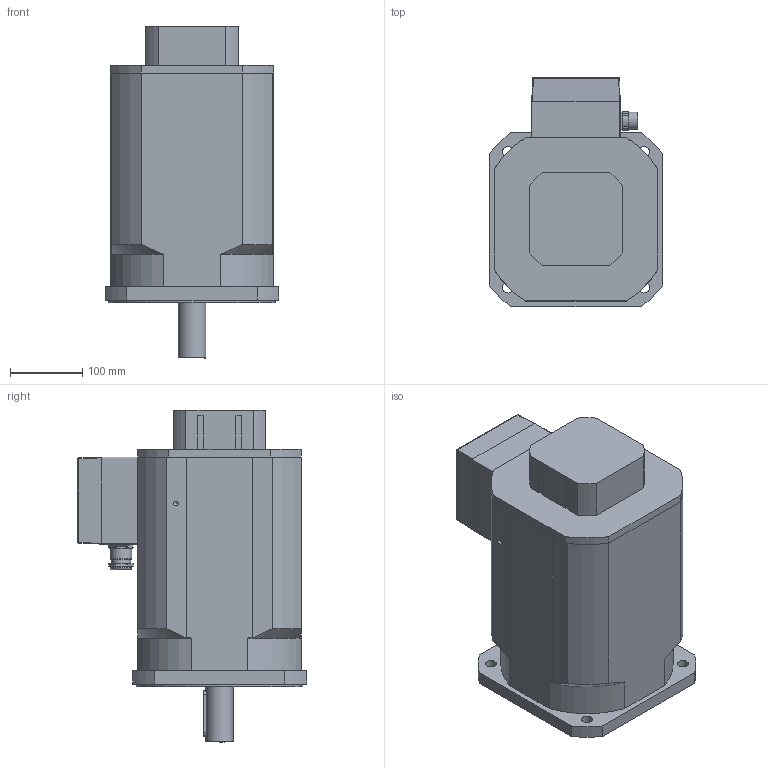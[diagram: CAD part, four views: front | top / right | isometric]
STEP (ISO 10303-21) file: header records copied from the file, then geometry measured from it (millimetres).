
FILE_DESCRIPTION(/* description */ ('Alibre Inc.'),/* implementation_level */ '2;1');
FILE_NAME(/* name */ 'export0',/* time_stamp */ '2011-11-01T09:53:53+01:00',/* author */ (''),/* organization */ (''),/* preprocessor_version */ 'ST-DEVELOPER v12',/* originating_system */ 'Alibre',/* authorisation */ '');
FILE_SCHEMA (('CONFIG_CONTROL_DESIGN'));
Length unit declared in the file: millimetre
Products named in the file (9): ID_1; ID_2
Bounding box: 240 x 316 x 458 mm (x, y, z)
Volume: 17483625.5 mm3; surface area: 633962.2 mm2
Topology: 8 solids, 8 shells, 243 faces, 610 edges, 392 vertices
Faces by surface type: plane 127, cylinder 86, torus 15, cone 11, bspline 4
Full cylindrical faces by diameter (mm): 2.7 x4, 6.647 x3, 10.106 x1, 15 x5, 20 x4, 24 x1, 25 x2, 26.75 x1, 30 x2, 38 x1, 45 x1, 230 x1
Entity records: 8880 total; most frequent: CARTESIAN_POINT 2448, ORIENTED_EDGE 1112, DIRECTION 1079, EDGE_CURVE 556, AXIS2_PLACEMENT_3D 469, VERTEX_POINT 381, FACE_BOUND 315, EDGE_LOOP 312
